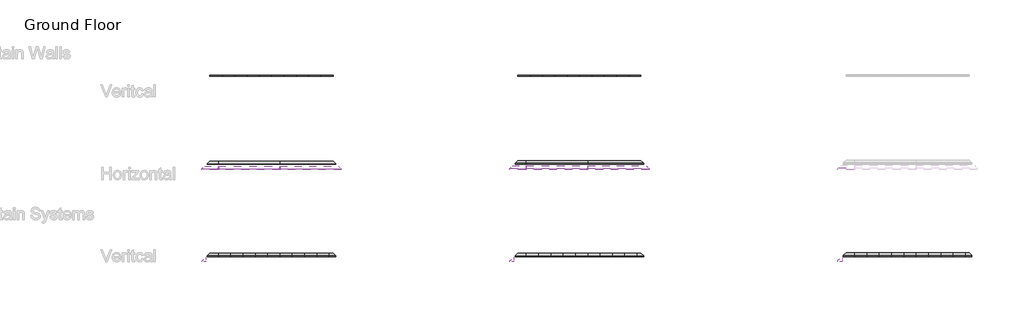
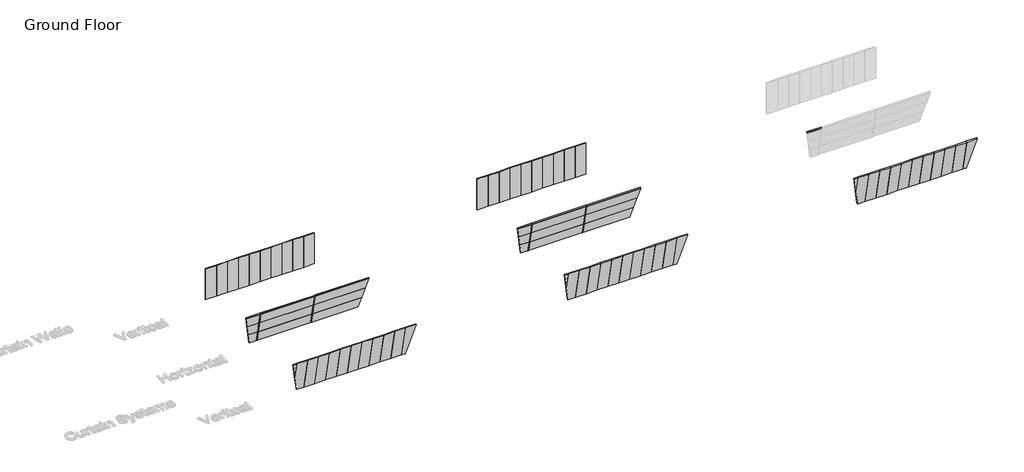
# One storey, part 1 of 9: 81 plates, 16 members.
"""IFC4 building model written with IfcOpenShell, lengths in millimetres."""

from ifc_helpers import new_model, si_unit, origin, place, context, project, spatial, transform, mapped, element, save
from components import rectangular_mullion_pi_mullion_20gap_50depth_70width_142a5764, rectangular_mullion_pi_mullion_20gap_50depth_70width_9113199f, system_panel_276d5853, system_panel_b8428c64, system_panel_244e55d7, system_panel_0e52adfc, system_panel_58bfb996, system_panel_810aceff, system_panel_dae109d1, system_panel_3fc5bacf, system_panel_61ef77c3, system_panel_4a560e26, system_panel_8fc2fa07, system_panel_ffccc5ed, system_panel_a9172ad6, system_panel_276398e4, system_panel_e92a4fb4, system_panel_2d20ec1c, system_panel_2103b3a6, system_panel_ce3216b0, system_panel_0e282976, system_panel_e06f3d7a, system_panel_9f1cbbff, system_panel_110e811f, system_panel_6bba82fc, system_panel_1b485f75, system_panel_cb7dd1a5, system_panel_68652501, system_panel_b922ef73, system_panel_e1c3cb3b, system_panel_d6a9731a, system_panel_ae01b499, system_panel_da9f9245, system_panel_4db2f891, system_panel_0650ad8c, system_panel_78934fff, system_panel_72fa3ca7

model = new_model("IFC4")

# Units and contexts
model_context = context("Model", 3, world=origin())
ifc_project = project(units=[si_unit("LENGTHUNIT", "METRE", prefix="MILLI")], contexts=[model_context])

# Site, building, storey
site = spatial("IfcSite", under=ifc_project)
building = spatial("IfcBuilding", under=site)
storey = spatial("IfcBuildingStorey", under=building, Name="Ground Floor", Elevation=0.0)

# Members
placement = place(None, origin())
rectangular_mullion_pi_mullion_20gap_50depth_70width_shape = rectangular_mullion_pi_mullion_20gap_50depth_70width_142a5764(model_context)
element("IfcMember", 1, ObjectType="Rectangular Mullion : PI-Mullion - 20Gap-50Depth-70Width", at=placement, inside=storey, context=model_context, shape_type="MappedRepresentation", body=[
    mapped(rectangular_mullion_pi_mullion_20gap_50depth_70width_shape, transform((-44187.533429, -11236.337246, 3600.0), x_axis=(-1.0, 0.0, 0.0), y_axis=(0.0, -0.978268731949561, -0.20734099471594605), z_axis=(0.0, -0.20734099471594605, 0.978268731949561))),
])
element("IfcMember", 2, ObjectType="Rectangular Mullion : PI-Mullion - 20Gap-50Depth-70Width", at=placement, inside=storey, context=model_context, shape_type="MappedRepresentation", body=[
    mapped(rectangular_mullion_pi_mullion_20gap_50depth_70width_shape, transform((-50187.533429, -11236.337246, 3600.0), x_axis=(-1.0, 0.0, 0.0), y_axis=(0.0, -0.978268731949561, -0.20734099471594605), z_axis=(0.0, -0.20734099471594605, 0.978268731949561))),
])
element("IfcMember", 3, ObjectType="Rectangular Mullion : PI-Mullion - 20Gap-50Depth-70Width", at=placement, inside=storey, context=model_context, shape_type="MappedRepresentation", body=[
    mapped(rectangular_mullion_pi_mullion_20gap_50depth_70width_shape, transform((-14187.533429, -11236.337246, 3600.0), x_axis=(-1.0, 0.0, 0.0), y_axis=(0.0, -0.978268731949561, -0.20734099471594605), z_axis=(0.0, -0.20734099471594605, 0.978268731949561))),
])
element("IfcMember", 4, ObjectType="Rectangular Mullion : PI-Mullion - 20Gap-50Depth-70Width", at=placement, inside=storey, context=model_context, shape_type="MappedRepresentation", body=[
    mapped(rectangular_mullion_pi_mullion_20gap_50depth_70width_shape, transform((-20187.533429, -11236.337246, 3600.0), x_axis=(-1.0, 0.0, 0.0), y_axis=(0.0, -0.978268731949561, -0.20734099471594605), z_axis=(0.0, -0.20734099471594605, 0.978268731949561))),
])
rectangular_mullion_pi_mullion_20gap_50depth_70width_2_shape = rectangular_mullion_pi_mullion_20gap_50depth_70width_9113199f(model_context)
element("IfcMember", 5, ObjectType="Rectangular Mullion : PI-Mullion - 20Gap-50Depth-70Width", at=placement, inside=storey, context=model_context, shape_type="MappedRepresentation", body=[
    mapped(rectangular_mullion_pi_mullion_20gap_50depth_70width_2_shape, transform((-44187.533429, -10722.1377115, 1173.9224783), x_axis=(-1.0, 0.0, 0.0), y_axis=(0.0, -0.9782687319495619, -0.207340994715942), z_axis=(0.0, -0.207340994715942, 0.9782687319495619))),
])
element("IfcMember", 6, ObjectType="Rectangular Mullion : PI-Mullion - 20Gap-50Depth-70Width", at=placement, inside=storey, context=model_context, shape_type="MappedRepresentation", body=[
    mapped(rectangular_mullion_pi_mullion_20gap_50depth_70width_2_shape, transform((-50187.533429, -10722.1377115, 1173.9224783), x_axis=(-1.0, 0.0, 0.0), y_axis=(0.0, -0.9782687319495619, -0.207340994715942), z_axis=(0.0, -0.207340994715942, 0.9782687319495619))),
])
element("IfcMember", 7, ObjectType="Rectangular Mullion : PI-Mullion - 20Gap-50Depth-70Width", at=placement, inside=storey, context=model_context, shape_type="MappedRepresentation", body=[
    mapped(rectangular_mullion_pi_mullion_20gap_50depth_70width_2_shape, transform((-14187.533429, -10722.1377115, 1173.9224783), x_axis=(-1.0, 0.0, 0.0), y_axis=(0.0, -0.9782687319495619, -0.207340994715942), z_axis=(0.0, -0.207340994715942, 0.9782687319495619))),
])
element("IfcMember", 8, ObjectType="Rectangular Mullion : PI-Mullion - 20Gap-50Depth-70Width", at=placement, inside=storey, context=model_context, shape_type="MappedRepresentation", body=[
    mapped(rectangular_mullion_pi_mullion_20gap_50depth_70width_2_shape, transform((-20187.533429, -10722.1377115, 1173.9224783), x_axis=(-1.0, 0.0, 0.0), y_axis=(0.0, -0.9782687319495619, -0.207340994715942), z_axis=(0.0, -0.207340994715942, 0.9782687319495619))),
])
element("IfcMember", 9, ObjectType="Rectangular Mullion : PI-Mullion - 20Gap-50Depth-70Width", at=placement, inside=storey, context=model_context, shape_type="MappedRepresentation", body=[
    mapped(rectangular_mullion_pi_mullion_20gap_50depth_70width_2_shape, transform((-44187.533429, -10970.9469052, 2347.8449567), x_axis=(-1.0, 0.0, 0.0), y_axis=(0.0, -0.9782687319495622, -0.20734099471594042), z_axis=(0.0, -0.20734099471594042, 0.9782687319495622))),
])
element("IfcMember", 10, ObjectType="Rectangular Mullion : PI-Mullion - 20Gap-50Depth-70Width", at=placement, inside=storey, context=model_context, shape_type="MappedRepresentation", body=[
    mapped(rectangular_mullion_pi_mullion_20gap_50depth_70width_2_shape, transform((-50187.533429, -10970.9469052, 2347.8449567), x_axis=(-1.0, 0.0, 0.0), y_axis=(0.0, -0.9782687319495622, -0.20734099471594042), z_axis=(0.0, -0.20734099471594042, 0.9782687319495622))),
])
element("IfcMember", 11, ObjectType="Rectangular Mullion : PI-Mullion - 20Gap-50Depth-70Width", at=placement, inside=storey, context=model_context, shape_type="MappedRepresentation", body=[
    mapped(rectangular_mullion_pi_mullion_20gap_50depth_70width_2_shape, transform((-44187.533429, -11219.7560988, 3521.767435), x_axis=(-1.0, 0.0, 0.0), y_axis=(0.0, -0.9782687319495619, -0.20734099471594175), z_axis=(0.0, -0.20734099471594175, 0.9782687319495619))),
])
element("IfcMember", 12, ObjectType="Rectangular Mullion : PI-Mullion - 20Gap-50Depth-70Width", at=placement, inside=storey, context=model_context, shape_type="MappedRepresentation", body=[
    mapped(rectangular_mullion_pi_mullion_20gap_50depth_70width_2_shape, transform((-50187.533429, -11219.7560988, 3521.767435), x_axis=(-1.0, 0.0, 0.0), y_axis=(0.0, -0.9782687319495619, -0.20734099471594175), z_axis=(0.0, -0.20734099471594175, 0.9782687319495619))),
])
element("IfcMember", 13, ObjectType="Rectangular Mullion : PI-Mullion - 20Gap-50Depth-70Width", at=placement, inside=storey, context=model_context, shape_type="MappedRepresentation", body=[
    mapped(rectangular_mullion_pi_mullion_20gap_50depth_70width_2_shape, transform((-14187.533429, -10970.9469052, 2347.8449567), x_axis=(-1.0, 0.0, 0.0), y_axis=(0.0, -0.9782687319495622, -0.20734099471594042), z_axis=(0.0, -0.20734099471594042, 0.9782687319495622))),
])
element("IfcMember", 14, ObjectType="Rectangular Mullion : PI-Mullion - 20Gap-50Depth-70Width", at=placement, inside=storey, context=model_context, shape_type="MappedRepresentation", body=[
    mapped(rectangular_mullion_pi_mullion_20gap_50depth_70width_2_shape, transform((-20187.533429, -10970.9469052, 2347.8449567), x_axis=(-1.0, 0.0, 0.0), y_axis=(0.0, -0.9782687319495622, -0.20734099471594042), z_axis=(0.0, -0.20734099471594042, 0.9782687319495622))),
])
element("IfcMember", 15, ObjectType="Rectangular Mullion : PI-Mullion - 20Gap-50Depth-70Width", at=placement, inside=storey, context=model_context, shape_type="MappedRepresentation", body=[
    mapped(rectangular_mullion_pi_mullion_20gap_50depth_70width_2_shape, transform((-14187.533429, -11219.7560988, 3521.767435), x_axis=(-1.0, 0.0, 0.0), y_axis=(0.0, -0.9782687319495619, -0.20734099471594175), z_axis=(0.0, -0.20734099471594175, 0.9782687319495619))),
])
element("IfcMember", 16, ObjectType="Rectangular Mullion : PI-Mullion - 20Gap-50Depth-70Width", at=placement, inside=storey, context=model_context, shape_type="MappedRepresentation", body=[
    mapped(rectangular_mullion_pi_mullion_20gap_50depth_70width_2_shape, transform((-20187.533429, -11219.7560988, 3521.767435), x_axis=(-1.0, 0.0, 0.0), y_axis=(0.0, -0.9782687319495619, -0.20734099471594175), z_axis=(0.0, -0.20734099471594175, 0.9782687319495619))),
])

# Plates
system_panel_shape = system_panel_276d5853(model_context)
element("IfcPlate", 17, ObjectType="System Panel : Equitilt 75mm Vertical - Plain RHEA - EPS-FR", at=placement, inside=storey, context=model_context, shape_type="MappedRepresentation", body=[
    mapped(system_panel_shape, transform((-38797.533429, -19473.3285178, 0.0), x_axis=(-1.0, 0.0, 0.0), y_axis=(0.0, -0.978268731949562, -0.20734099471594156), z_axis=(0.0, -0.20734099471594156, 0.978268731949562))),
])
system_panel_2_shape = system_panel_b8428c64(model_context)
element("IfcPlate", 18, ObjectType="System Panel : Equitilt 75mm Vertical - Plain RHEA - EPS-FR", at=placement, inside=storey, context=model_context, shape_type="MappedRepresentation", body=[
    mapped(system_panel_2_shape, transform((-39997.533429, -19473.3285178, 0.0), x_axis=(-1.0, 0.0, 0.0), y_axis=(0.0, -0.978268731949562, -0.20734099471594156), z_axis=(0.0, -0.20734099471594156, 0.978268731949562))),
])
element("IfcPlate", 19, ObjectType="System Panel : Equitilt 75mm Vertical - Plain RHEA - EPS-FR", at=placement, inside=storey, context=model_context, shape_type="MappedRepresentation", body=[
    mapped(system_panel_2_shape, transform((-41197.533429, -19473.3285178, 0.0), x_axis=(-1.0, 0.0, 0.0), y_axis=(0.0, -0.978268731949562, -0.20734099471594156), z_axis=(0.0, -0.20734099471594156, 0.978268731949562))),
])
element("IfcPlate", 20, ObjectType="System Panel : Equitilt 75mm Vertical - Plain RHEA - EPS-FR", at=placement, inside=storey, context=model_context, shape_type="MappedRepresentation", body=[
    mapped(system_panel_2_shape, transform((-42397.533429, -19473.3285178, 0.0), x_axis=(-1.0, 0.0, 0.0), y_axis=(0.0, -0.978268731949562, -0.20734099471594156), z_axis=(0.0, -0.20734099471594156, 0.978268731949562))),
])
element("IfcPlate", 21, ObjectType="System Panel : Equitilt 75mm Vertical - Plain RHEA - EPS-FR", at=placement, inside=storey, context=model_context, shape_type="MappedRepresentation", body=[
    mapped(system_panel_2_shape, transform((-43597.533429, -19473.3285178, 0.0), x_axis=(-1.0, 0.0, 0.0), y_axis=(0.0, -0.978268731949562, -0.20734099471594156), z_axis=(0.0, -0.20734099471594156, 0.978268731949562))),
])
element("IfcPlate", 22, ObjectType="System Panel : Equitilt 75mm Vertical - Plain RHEA - EPS-FR", at=placement, inside=storey, context=model_context, shape_type="MappedRepresentation", body=[
    mapped(system_panel_2_shape, transform((-44797.533429, -19473.3285178, 0.0), x_axis=(-1.0, 0.0, 0.0), y_axis=(0.0, -0.978268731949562, -0.20734099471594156), z_axis=(0.0, -0.20734099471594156, 0.978268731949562))),
])
element("IfcPlate", 23, ObjectType="System Panel : Equitilt 75mm Vertical - Plain RHEA - EPS-FR", at=placement, inside=storey, context=model_context, shape_type="MappedRepresentation", body=[
    mapped(system_panel_2_shape, transform((-45997.533429, -19473.3285178, 0.0), x_axis=(-1.0, 0.0, 0.0), y_axis=(0.0, -0.978268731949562, -0.20734099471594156), z_axis=(0.0, -0.20734099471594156, 0.978268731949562))),
])
element("IfcPlate", 24, ObjectType="System Panel : Equitilt 75mm Vertical - Plain RHEA - EPS-FR", at=placement, inside=storey, context=model_context, shape_type="MappedRepresentation", body=[
    mapped(system_panel_2_shape, transform((-47197.533429, -19473.3285178, 0.0), x_axis=(-1.0, 0.0, 0.0), y_axis=(0.0, -0.978268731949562, -0.20734099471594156), z_axis=(0.0, -0.20734099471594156, 0.978268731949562))),
])
element("IfcPlate", 25, ObjectType="System Panel : Equitilt 75mm Vertical - Plain RHEA - EPS-FR", at=placement, inside=storey, context=model_context, shape_type="MappedRepresentation", body=[
    mapped(system_panel_2_shape, transform((-48397.533429, -19473.3285178, 0.0), x_axis=(-1.0, 0.0, 0.0), y_axis=(0.0, -0.978268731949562, -0.20734099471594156), z_axis=(0.0, -0.20734099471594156, 0.978268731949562))),
])
element("IfcPlate", 26, ObjectType="System Panel : Equitilt 75mm Vertical - Plain RHEA - EPS-FR", at=placement, inside=storey, context=model_context, shape_type="MappedRepresentation", body=[
    mapped(system_panel_2_shape, transform((-49597.533429, -19473.3285178, 0.0), x_axis=(-1.0, 0.0, 0.0), y_axis=(0.0, -0.978268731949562, -0.20734099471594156), z_axis=(0.0, -0.20734099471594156, 0.978268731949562))),
])
system_panel_3_shape = system_panel_244e55d7(model_context)
element("IfcPlate", 27, ObjectType="System Panel : Equitilt 75mm Vertical - Plain RHEA - EPS-FR", at=placement, inside=storey, context=model_context, shape_type="MappedRepresentation", body=[
    mapped(system_panel_3_shape, transform((-50797.533429, -19473.3285178, 0.0), x_axis=(-1.0, 0.0, 0.0), y_axis=(0.0, -0.978268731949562, -0.20734099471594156), z_axis=(0.0, -0.20734099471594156, 0.978268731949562))),
])
system_panel_4_shape = system_panel_0e52adfc(model_context)
element("IfcPlate", 28, ObjectType="System Panel : Equitilt 75mm Vertical - Plain RHEA - EPS-FR", at=placement, inside=storey, context=model_context, shape_type="MappedRepresentation", body=[
    mapped(system_panel_4_shape, transform((-51597.533429, -19854.8328819, 1800.0), x_axis=(-1.0, 0.0, 0.0), y_axis=(0.0, -0.978268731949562, -0.20734099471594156), z_axis=(0.0, -0.20734099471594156, 0.978268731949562))),
])
system_panel_5_shape = system_panel_58bfb996(model_context)
element("IfcPlate", 29, ObjectType="System Panel : Equitilt 100mm Horizontal - Plain RHEA - EPS-FR", at=placement, inside=storey, context=model_context, shape_type="MappedRepresentation", body=[
    mapped(system_panel_5_shape, transform((-17187.533429, -10473.3285178, 0.0), x_axis=(-1.0, 0.0, 0.0), y_axis=(0.0, -0.978268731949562, -0.20734099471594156), z_axis=(0.0, -0.20734099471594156, 0.978268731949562))),
])
element("IfcPlate", 30, ObjectType="System Panel : Equitilt 100mm Horizontal - Plain RHEA - EPS-FR", at=placement, inside=storey, context=model_context, shape_type="MappedRepresentation", body=[
    mapped(system_panel_5_shape, transform((-17187.533429, -10722.1377115, 1173.9224783), x_axis=(-1.0, 0.0, 0.0), y_axis=(0.0, -0.978268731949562, -0.20734099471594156), z_axis=(0.0, -0.20734099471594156, 0.978268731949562))),
])
element("IfcPlate", 31, ObjectType="System Panel : Equitilt 100mm Horizontal - Plain RHEA - EPS-FR", at=placement, inside=storey, context=model_context, shape_type="MappedRepresentation", body=[
    mapped(system_panel_5_shape, transform((-17187.533429, -10970.9469052, 2347.8449567), x_axis=(-1.0, 0.0, 0.0), y_axis=(0.0, -0.978268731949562, -0.20734099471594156), z_axis=(0.0, -0.20734099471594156, 0.978268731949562))),
])
system_panel_6_shape = system_panel_810aceff(model_context)
element("IfcPlate", 32, ObjectType="System Panel : Equitilt 100mm Horizontal - Plain RHEA - EPS-FR", at=placement, inside=storey, context=model_context, shape_type="MappedRepresentation", body=[
    mapped(system_panel_6_shape, transform((-17187.533429, -11219.7560988, 3521.767435), x_axis=(-1.0, 0.0, 0.0), y_axis=(0.0, -0.978268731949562, -0.20734099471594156), z_axis=(0.0, -0.20734099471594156, 0.978268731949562))),
])
system_panel_7_shape = system_panel_dae109d1(model_context)
element("IfcPlate", 33, ObjectType="System Panel : Equitilt 75mm Horizontal - Plain RHEA - EPS-FR", at=placement, inside=storey, context=model_context, shape_type="MappedRepresentation", body=[
    mapped(system_panel_7_shape, transform((-41457.097598, -10473.3285178, 0.0), x_axis=(-1.0, 0.0, 0.0), y_axis=(0.0, -0.978268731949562, -0.20734099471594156), z_axis=(0.0, -0.20734099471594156, 0.978268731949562))),
])
system_panel_8_shape = system_panel_3fc5bacf(model_context)
element("IfcPlate", 34, ObjectType="System Panel : Equitilt 75mm Horizontal - Plain RHEA - EPS-FR", at=placement, inside=storey, context=model_context, shape_type="MappedRepresentation", body=[
    mapped(system_panel_8_shape, transform((-47187.533429, -10473.3285178, 0.0), x_axis=(-1.0, 0.0, 0.0), y_axis=(0.0, -0.978268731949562, -0.20734099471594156), z_axis=(0.0, -0.20734099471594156, 0.978268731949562))),
])
element("IfcPlate", 35, ObjectType="System Panel : Equitilt 75mm Horizontal - Plain RHEA - EPS-FR", at=placement, inside=storey, context=model_context, shape_type="MappedRepresentation", body=[
    mapped(system_panel_8_shape, transform((-47187.533429, -10722.1377115, 1173.9224783), x_axis=(-1.0, 0.0, 0.0), y_axis=(0.0, -0.978268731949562, -0.20734099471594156), z_axis=(0.0, -0.20734099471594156, 0.978268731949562))),
])
element("IfcPlate", 36, ObjectType="System Panel : Equitilt 75mm Horizontal - Plain RHEA - EPS-FR", at=placement, inside=storey, context=model_context, shape_type="MappedRepresentation", body=[
    mapped(system_panel_8_shape, transform((-47187.533429, -10970.9469052, 2347.8449567), x_axis=(-1.0, 0.0, 0.0), y_axis=(0.0, -0.978268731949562, -0.20734099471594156), z_axis=(0.0, -0.20734099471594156, 0.978268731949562))),
])
system_panel_9_shape = system_panel_61ef77c3(model_context)
element("IfcPlate", 37, ObjectType="System Panel : Equitilt 75mm Horizontal - Plain RHEA - EPS-FR", at=placement, inside=storey, context=model_context, shape_type="MappedRepresentation", body=[
    mapped(system_panel_9_shape, transform((-50727.9692599, -10473.3285178, 0.0), x_axis=(-1.0, 0.0, 0.0), y_axis=(0.0, -0.978268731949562, -0.20734099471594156), z_axis=(0.0, -0.20734099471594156, 0.978268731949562))),
])
system_panel_10_shape = system_panel_4a560e26(model_context)
element("IfcPlate", 38, ObjectType="System Panel : Equitilt 75mm Horizontal - Plain RHEA - EPS-FR", at=placement, inside=storey, context=model_context, shape_type="MappedRepresentation", body=[
    mapped(system_panel_10_shape, transform((-41326.6617671, -10722.1377115, 1173.9224783), x_axis=(-1.0, 0.0, 0.0), y_axis=(0.0, -0.978268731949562, -0.20734099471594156), z_axis=(0.0, -0.20734099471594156, 0.978268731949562))),
])
system_panel_11_shape = system_panel_8fc2fa07(model_context)
element("IfcPlate", 39, ObjectType="System Panel : Equitilt 75mm Horizontal - Plain RHEA - EPS-FR", at=placement, inside=storey, context=model_context, shape_type="MappedRepresentation", body=[
    mapped(system_panel_11_shape, transform((-50858.4050908, -10722.1377115, 1173.9224783), x_axis=(-1.0, 0.0, 0.0), y_axis=(0.0, -0.978268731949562, -0.20734099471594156), z_axis=(0.0, -0.20734099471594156, 0.978268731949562))),
])
system_panel_12_shape = system_panel_ffccc5ed(model_context)
element("IfcPlate", 40, ObjectType="System Panel : Equitilt 75mm Horizontal - Plain RHEA - EPS-FR", at=placement, inside=storey, context=model_context, shape_type="MappedRepresentation", body=[
    mapped(system_panel_12_shape, transform((-41196.2259362, -10970.9469052, 2347.8449567), x_axis=(-1.0, 0.0, 0.0), y_axis=(0.0, -0.978268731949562, -0.20734099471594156), z_axis=(0.0, -0.20734099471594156, 0.978268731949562))),
])
system_panel_13_shape = system_panel_a9172ad6(model_context)
element("IfcPlate", 41, ObjectType="System Panel : Equitilt 75mm Horizontal - Plain RHEA - EPS-FR", at=placement, inside=storey, context=model_context, shape_type="MappedRepresentation", body=[
    mapped(system_panel_13_shape, transform((-50988.8409217, -10970.9469052, 2347.8449567), x_axis=(-1.0, 0.0, 0.0), y_axis=(0.0, -0.978268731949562, -0.20734099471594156), z_axis=(0.0, -0.20734099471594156, 0.978268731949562))),
])
system_panel_14_shape = system_panel_276398e4(model_context)
element("IfcPlate", 42, ObjectType="System Panel : Equitilt 75mm Horizontal - Plain RHEA - EPS-FR", at=placement, inside=storey, context=model_context, shape_type="MappedRepresentation", body=[
    mapped(system_panel_14_shape, transform((-41187.533429, -11219.7560988, 3521.767435), x_axis=(-1.0, 0.0, 0.0), y_axis=(0.0, -0.978268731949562, -0.20734099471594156), z_axis=(0.0, -0.20734099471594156, 0.978268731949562))),
])
system_panel_15_shape = system_panel_e92a4fb4(model_context)
element("IfcPlate", 43, ObjectType="System Panel : Equitilt 75mm Horizontal - Plain RHEA - EPS-FR", at=placement, inside=storey, context=model_context, shape_type="MappedRepresentation", body=[
    mapped(system_panel_15_shape, transform((-47187.533429, -11219.7560988, 3521.767435), x_axis=(-1.0, 0.0, 0.0), y_axis=(0.0, -0.978268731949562, -0.20734099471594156), z_axis=(0.0, -0.20734099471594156, 0.978268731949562))),
])
system_panel_16_shape = system_panel_2d20ec1c(model_context)
element("IfcPlate", 44, ObjectType="System Panel : Equitilt 75mm Horizontal - Plain RHEA - EPS-FR", at=placement, inside=storey, context=model_context, shape_type="MappedRepresentation", body=[
    mapped(system_panel_16_shape, transform((-50997.533429, -11219.7560988, 3521.767435), x_axis=(-1.0, 0.0, 0.0), y_axis=(0.0, -0.978268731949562, -0.20734099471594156), z_axis=(0.0, -0.20734099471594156, 0.978268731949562))),
])
system_panel_17_shape = system_panel_2103b3a6(model_context)
element("IfcPlate", 45, ObjectType="System Panel : Equitilt 100mm Vertical - Plain RHEA - EPS-FR", at=placement, inside=storey, context=model_context, shape_type="MappedRepresentation", body=[
    mapped(system_panel_17_shape, transform((-8797.533429, -19473.3285178, 0.0), x_axis=(-1.0, 0.0, 0.0), y_axis=(0.0, -0.978268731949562, -0.20734099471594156), z_axis=(0.0, -0.20734099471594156, 0.978268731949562))),
])
system_panel_18_shape = system_panel_ce3216b0(model_context)
element("IfcPlate", 46, ObjectType="System Panel : Equitilt 100mm Vertical - Plain RHEA - EPS-FR", at=placement, inside=storey, context=model_context, shape_type="MappedRepresentation", body=[
    mapped(system_panel_18_shape, transform((-9997.533429, -19473.3285178, 0.0), x_axis=(-1.0, 0.0, 0.0), y_axis=(0.0, -0.978268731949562, -0.20734099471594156), z_axis=(0.0, -0.20734099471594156, 0.978268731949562))),
])
element("IfcPlate", 47, ObjectType="System Panel : Equitilt 100mm Vertical - Plain RHEA - EPS-FR", at=placement, inside=storey, context=model_context, shape_type="MappedRepresentation", body=[
    mapped(system_panel_18_shape, transform((-11197.533429, -19473.3285178, 0.0), x_axis=(-1.0, 0.0, 0.0), y_axis=(0.0, -0.978268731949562, -0.20734099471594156), z_axis=(0.0, -0.20734099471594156, 0.978268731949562))),
])
element("IfcPlate", 48, ObjectType="System Panel : Equitilt 100mm Vertical - Plain RHEA - EPS-FR", at=placement, inside=storey, context=model_context, shape_type="MappedRepresentation", body=[
    mapped(system_panel_18_shape, transform((-12397.533429, -19473.3285178, 0.0), x_axis=(-1.0, 0.0, 0.0), y_axis=(0.0, -0.978268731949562, -0.20734099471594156), z_axis=(0.0, -0.20734099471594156, 0.978268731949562))),
])
element("IfcPlate", 49, ObjectType="System Panel : Equitilt 100mm Vertical - Plain RHEA - EPS-FR", at=placement, inside=storey, context=model_context, shape_type="MappedRepresentation", body=[
    mapped(system_panel_18_shape, transform((-13597.533429, -19473.3285178, 0.0), x_axis=(-1.0, 0.0, 0.0), y_axis=(0.0, -0.978268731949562, -0.20734099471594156), z_axis=(0.0, -0.20734099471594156, 0.978268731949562))),
])
element("IfcPlate", 50, ObjectType="System Panel : Equitilt 100mm Vertical - Plain RHEA - EPS-FR", at=placement, inside=storey, context=model_context, shape_type="MappedRepresentation", body=[
    mapped(system_panel_18_shape, transform((-14797.533429, -19473.3285178, 0.0), x_axis=(-1.0, 0.0, 0.0), y_axis=(0.0, -0.978268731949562, -0.20734099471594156), z_axis=(0.0, -0.20734099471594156, 0.978268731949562))),
])
element("IfcPlate", 51, ObjectType="System Panel : Equitilt 100mm Vertical - Plain RHEA - EPS-FR", at=placement, inside=storey, context=model_context, shape_type="MappedRepresentation", body=[
    mapped(system_panel_18_shape, transform((-15997.533429, -19473.3285178, 0.0), x_axis=(-1.0, 0.0, 0.0), y_axis=(0.0, -0.978268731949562, -0.20734099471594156), z_axis=(0.0, -0.20734099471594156, 0.978268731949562))),
])
element("IfcPlate", 52, ObjectType="System Panel : Equitilt 100mm Vertical - Plain RHEA - EPS-FR", at=placement, inside=storey, context=model_context, shape_type="MappedRepresentation", body=[
    mapped(system_panel_18_shape, transform((-17197.533429, -19473.3285178, 0.0), x_axis=(-1.0, 0.0, 0.0), y_axis=(0.0, -0.978268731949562, -0.20734099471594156), z_axis=(0.0, -0.20734099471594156, 0.978268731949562))),
])
element("IfcPlate", 53, ObjectType="System Panel : Equitilt 100mm Vertical - Plain RHEA - EPS-FR", at=placement, inside=storey, context=model_context, shape_type="MappedRepresentation", body=[
    mapped(system_panel_18_shape, transform((-18397.533429, -19473.3285178, 0.0), x_axis=(-1.0, 0.0, 0.0), y_axis=(0.0, -0.978268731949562, -0.20734099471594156), z_axis=(0.0, -0.20734099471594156, 0.978268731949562))),
])
element("IfcPlate", 54, ObjectType="System Panel : Equitilt 100mm Vertical - Plain RHEA - EPS-FR", at=placement, inside=storey, context=model_context, shape_type="MappedRepresentation", body=[
    mapped(system_panel_18_shape, transform((-19597.533429, -19473.3285178, 0.0), x_axis=(-1.0, 0.0, 0.0), y_axis=(0.0, -0.978268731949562, -0.20734099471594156), z_axis=(0.0, -0.20734099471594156, 0.978268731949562))),
])
system_panel_19_shape = system_panel_0e282976(model_context)
element("IfcPlate", 55, ObjectType="System Panel : Equitilt 100mm Vertical - Plain RHEA - EPS-FR", at=placement, inside=storey, context=model_context, shape_type="MappedRepresentation", body=[
    mapped(system_panel_19_shape, transform((-20797.533429, -19473.3285178, 0.0), x_axis=(-1.0, 0.0, 0.0), y_axis=(0.0, -0.978268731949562, -0.20734099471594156), z_axis=(0.0, -0.20734099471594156, 0.978268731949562))),
])
system_panel_20_shape = system_panel_e06f3d7a(model_context)
element("IfcPlate", 56, ObjectType="System Panel : Equitilt 100mm Vertical - Plain RHEA - EPS-FR", at=placement, inside=storey, context=model_context, shape_type="MappedRepresentation", body=[
    mapped(system_panel_20_shape, transform((-21597.533429, -19854.8328819, 1800.0), x_axis=(-1.0, 0.0, 0.0), y_axis=(0.0, -0.978268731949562, -0.20734099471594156), z_axis=(0.0, -0.20734099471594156, 0.978268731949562))),
])
system_panel_21_shape = system_panel_9f1cbbff(model_context)
element("IfcPlate", 57, ObjectType="System Panel : Equitilt 150mm Horizontal - Plain RHEA - EPS-FR", at=placement, inside=storey, context=model_context, shape_type="MappedRepresentation", body=[
    mapped(system_panel_21_shape, transform((11002.466571, -11219.7560988, 3521.767435), x_axis=(-1.0, 0.0, 0.0), y_axis=(0.0, -0.978268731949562, -0.20734099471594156), z_axis=(0.0, -0.20734099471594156, 0.978268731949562))),
])
system_panel_22_shape = system_panel_110e811f(model_context)
element("IfcPlate", 58, ObjectType="System Panel : Equitilt 150mm Vertical - Plain RHEA - EPS-FR", at=placement, inside=storey, context=model_context, shape_type="MappedRepresentation", body=[
    mapped(system_panel_22_shape, transform((23202.466571, -19473.3285178, 0.0), x_axis=(-1.0, 0.0, 0.0), y_axis=(0.0, -0.978268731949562, -0.20734099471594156), z_axis=(0.0, -0.20734099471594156, 0.978268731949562))),
])
system_panel_23_shape = system_panel_6bba82fc(model_context)
element("IfcPlate", 59, ObjectType="System Panel : Equitilt 150mm Vertical - Plain RHEA - EPS-FR", at=placement, inside=storey, context=model_context, shape_type="MappedRepresentation", body=[
    mapped(system_panel_23_shape, transform((22002.466571, -19473.3285178, 0.0), x_axis=(-1.0, 0.0, 0.0), y_axis=(0.0, -0.978268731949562, -0.20734099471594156), z_axis=(0.0, -0.20734099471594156, 0.978268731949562))),
])
element("IfcPlate", 60, ObjectType="System Panel : Equitilt 150mm Vertical - Plain RHEA - EPS-FR", at=placement, inside=storey, context=model_context, shape_type="MappedRepresentation", body=[
    mapped(system_panel_23_shape, transform((20802.466571, -19473.3285178, 0.0), x_axis=(-1.0, 0.0, 0.0), y_axis=(0.0, -0.978268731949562, -0.20734099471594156), z_axis=(0.0, -0.20734099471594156, 0.978268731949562))),
])
element("IfcPlate", 61, ObjectType="System Panel : Equitilt 150mm Vertical - Plain RHEA - EPS-FR", at=placement, inside=storey, context=model_context, shape_type="MappedRepresentation", body=[
    mapped(system_panel_23_shape, transform((19602.466571, -19473.3285178, 0.0), x_axis=(-1.0, 0.0, 0.0), y_axis=(0.0, -0.978268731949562, -0.20734099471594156), z_axis=(0.0, -0.20734099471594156, 0.978268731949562))),
])
element("IfcPlate", 62, ObjectType="System Panel : Equitilt 150mm Vertical - Plain RHEA - EPS-FR", at=placement, inside=storey, context=model_context, shape_type="MappedRepresentation", body=[
    mapped(system_panel_23_shape, transform((18402.466571, -19473.3285178, 0.0), x_axis=(-1.0, 0.0, 0.0), y_axis=(0.0, -0.978268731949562, -0.20734099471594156), z_axis=(0.0, -0.20734099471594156, 0.978268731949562))),
])
element("IfcPlate", 63, ObjectType="System Panel : Equitilt 150mm Vertical - Plain RHEA - EPS-FR", at=placement, inside=storey, context=model_context, shape_type="MappedRepresentation", body=[
    mapped(system_panel_23_shape, transform((17202.466571, -19473.3285178, 0.0), x_axis=(-1.0, 0.0, 0.0), y_axis=(0.0, -0.978268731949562, -0.20734099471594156), z_axis=(0.0, -0.20734099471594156, 0.978268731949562))),
])
element("IfcPlate", 64, ObjectType="System Panel : Equitilt 150mm Vertical - Plain RHEA - EPS-FR", at=placement, inside=storey, context=model_context, shape_type="MappedRepresentation", body=[
    mapped(system_panel_23_shape, transform((16002.466571, -19473.3285178, 0.0), x_axis=(-1.0, 0.0, 0.0), y_axis=(0.0, -0.978268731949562, -0.20734099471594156), z_axis=(0.0, -0.20734099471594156, 0.978268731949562))),
])
element("IfcPlate", 65, ObjectType="System Panel : Equitilt 150mm Vertical - Plain RHEA - EPS-FR", at=placement, inside=storey, context=model_context, shape_type="MappedRepresentation", body=[
    mapped(system_panel_23_shape, transform((14802.466571, -19473.3285178, 0.0), x_axis=(-1.0, 0.0, 0.0), y_axis=(0.0, -0.978268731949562, -0.20734099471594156), z_axis=(0.0, -0.20734099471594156, 0.978268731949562))),
])
element("IfcPlate", 66, ObjectType="System Panel : Equitilt 150mm Vertical - Plain RHEA - EPS-FR", at=placement, inside=storey, context=model_context, shape_type="MappedRepresentation", body=[
    mapped(system_panel_23_shape, transform((13602.466571, -19473.3285178, 0.0), x_axis=(-1.0, 0.0, 0.0), y_axis=(0.0, -0.978268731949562, -0.20734099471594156), z_axis=(0.0, -0.20734099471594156, 0.978268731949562))),
])
element("IfcPlate", 67, ObjectType="System Panel : Equitilt 150mm Vertical - Plain RHEA - EPS-FR", at=placement, inside=storey, context=model_context, shape_type="MappedRepresentation", body=[
    mapped(system_panel_23_shape, transform((12402.466571, -19473.3285178, 0.0), x_axis=(-1.0, 0.0, 0.0), y_axis=(0.0, -0.978268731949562, -0.20734099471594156), z_axis=(0.0, -0.20734099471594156, 0.978268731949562))),
])
system_panel_24_shape = system_panel_1b485f75(model_context)
element("IfcPlate", 68, ObjectType="System Panel : Equitilt 150mm Vertical - Plain RHEA - EPS-FR", at=placement, inside=storey, context=model_context, shape_type="MappedRepresentation", body=[
    mapped(system_panel_24_shape, transform((11202.466571, -19473.3285178, 0.0), x_axis=(-1.0, 0.0, 0.0), y_axis=(0.0, -0.978268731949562, -0.20734099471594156), z_axis=(0.0, -0.20734099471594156, 0.978268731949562))),
])
system_panel_25_shape = system_panel_cb7dd1a5(model_context)
element("IfcPlate", 69, ObjectType="System Panel : Equitilt 150mm Vertical - Plain RHEA - EPS-FR", at=placement, inside=storey, context=model_context, shape_type="MappedRepresentation", body=[
    mapped(system_panel_25_shape, transform((10402.466571, -19854.8328819, 1800.0), x_axis=(-1.0, 0.0, 0.0), y_axis=(0.0, -0.978268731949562, -0.20734099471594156), z_axis=(0.0, -0.20734099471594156, 0.978268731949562))),
])
system_panel_26_shape = system_panel_68652501(model_context)
element("IfcPlate", 70, ObjectType="System Panel : Equitilt 100mm Horizontal - Plain RHEA - EPS-FR", at=placement, inside=storey, context=model_context, shape_type="MappedRepresentation", body=[
    mapped(system_panel_26_shape, transform((-11457.097598, -10473.3285178, 0.0), x_axis=(-1.0, 0.0, 0.0), y_axis=(0.0, -0.978268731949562, -0.20734099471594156), z_axis=(0.0, -0.20734099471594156, 0.978268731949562))),
])
system_panel_27_shape = system_panel_b922ef73(model_context)
element("IfcPlate", 71, ObjectType="System Panel : Equitilt 100mm Horizontal - Plain RHEA - EPS-FR", at=placement, inside=storey, context=model_context, shape_type="MappedRepresentation", body=[
    mapped(system_panel_27_shape, transform((-20727.9692599, -10473.3285178, 0.0), x_axis=(-1.0, 0.0, 0.0), y_axis=(0.0, -0.978268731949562, -0.20734099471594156), z_axis=(0.0, -0.20734099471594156, 0.978268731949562))),
])
system_panel_28_shape = system_panel_e1c3cb3b(model_context)
element("IfcPlate", 72, ObjectType="System Panel : Equitilt 100mm Horizontal - Plain RHEA - EPS-FR", at=placement, inside=storey, context=model_context, shape_type="MappedRepresentation", body=[
    mapped(system_panel_28_shape, transform((-11326.6617671, -10722.1377115, 1173.9224783), x_axis=(-1.0, 0.0, 0.0), y_axis=(0.0, -0.978268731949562, -0.20734099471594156), z_axis=(0.0, -0.20734099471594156, 0.978268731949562))),
])
system_panel_29_shape = system_panel_d6a9731a(model_context)
element("IfcPlate", 73, ObjectType="System Panel : Equitilt 100mm Horizontal - Plain RHEA - EPS-FR", at=placement, inside=storey, context=model_context, shape_type="MappedRepresentation", body=[
    mapped(system_panel_29_shape, transform((-20858.4050908, -10722.1377115, 1173.9224783), x_axis=(-1.0, 0.0, 0.0), y_axis=(0.0, -0.978268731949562, -0.20734099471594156), z_axis=(0.0, -0.20734099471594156, 0.978268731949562))),
])
system_panel_30_shape = system_panel_ae01b499(model_context)
element("IfcPlate", 74, ObjectType="System Panel : Equitilt 100mm Horizontal - Plain RHEA - EPS-FR", at=placement, inside=storey, context=model_context, shape_type="MappedRepresentation", body=[
    mapped(system_panel_30_shape, transform((-11196.2259362, -10970.9469052, 2347.8449567), x_axis=(-1.0, 0.0, 0.0), y_axis=(0.0, -0.978268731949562, -0.20734099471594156), z_axis=(0.0, -0.20734099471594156, 0.978268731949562))),
])
system_panel_31_shape = system_panel_da9f9245(model_context)
element("IfcPlate", 75, ObjectType="System Panel : Equitilt 100mm Horizontal - Plain RHEA - EPS-FR", at=placement, inside=storey, context=model_context, shape_type="MappedRepresentation", body=[
    mapped(system_panel_31_shape, transform((-20988.8409217, -10970.9469052, 2347.8449567), x_axis=(-1.0, 0.0, 0.0), y_axis=(0.0, -0.978268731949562, -0.20734099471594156), z_axis=(0.0, -0.20734099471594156, 0.978268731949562))),
])
system_panel_32_shape = system_panel_4db2f891(model_context)
element("IfcPlate", 76, ObjectType="System Panel : Equitilt 100mm Horizontal - Plain RHEA - EPS-FR", at=placement, inside=storey, context=model_context, shape_type="MappedRepresentation", body=[
    mapped(system_panel_32_shape, transform((-11187.533429, -11219.7560988, 3521.767435), x_axis=(-1.0, 0.0, 0.0), y_axis=(0.0, -0.978268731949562, -0.20734099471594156), z_axis=(0.0, -0.20734099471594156, 0.978268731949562))),
])
system_panel_33_shape = system_panel_0650ad8c(model_context)
element("IfcPlate", 77, ObjectType="System Panel : Equitilt 100mm Horizontal - Plain RHEA - EPS-FR", at=placement, inside=storey, context=model_context, shape_type="MappedRepresentation", body=[
    mapped(system_panel_33_shape, transform((-20997.533429, -11219.7560988, 3521.767435), x_axis=(-1.0, 0.0, 0.0), y_axis=(0.0, -0.978268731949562, -0.20734099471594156), z_axis=(0.0, -0.20734099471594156, 0.978268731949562))),
])
system_panel_34_shape = system_panel_78934fff(model_context)
element("IfcPlate", 78, ObjectType="System Panel : Equitilt 100mm Vertical - Plain RHEA - EPS-FR", at=placement, inside=storey, context=model_context, shape_type="MappedRepresentation", body=[
    mapped(system_panel_34_shape, transform((-20397.533429, -2133.3285178, 0.0), x_axis=(1.0, 0.0, 0.0), y_axis=(0.0, 1.0, 0.0), z_axis=(0.0, 0.0, 1.0))),
])
element("IfcPlate", 79, ObjectType="System Panel : Equitilt 100mm Vertical - Plain RHEA - EPS-FR", at=placement, inside=storey, context=model_context, shape_type="MappedRepresentation", body=[
    mapped(system_panel_34_shape, transform((-17997.533429, -2133.3285178, 0.0), x_axis=(1.0, 0.0, 0.0), y_axis=(0.0, 1.0, 0.0), z_axis=(0.0, 0.0, 1.0))),
])
element("IfcPlate", 80, ObjectType="System Panel : Equitilt 100mm Vertical - Plain RHEA - EPS-FR", at=placement, inside=storey, context=model_context, shape_type="MappedRepresentation", body=[
    mapped(system_panel_34_shape, transform((-16797.533429, -2133.3285178, 0.0), x_axis=(1.0, 0.0, 0.0), y_axis=(0.0, 1.0, 0.0), z_axis=(0.0, 0.0, 1.0))),
])
element("IfcPlate", 81, ObjectType="System Panel : Equitilt 100mm Vertical - Plain RHEA - EPS-FR", at=placement, inside=storey, context=model_context, shape_type="MappedRepresentation", body=[
    mapped(system_panel_34_shape, transform((-15597.533429, -2133.3285178, 0.0), x_axis=(1.0, 0.0, 0.0), y_axis=(0.0, 1.0, 0.0), z_axis=(0.0, 0.0, 1.0))),
])
element("IfcPlate", 82, ObjectType="System Panel : Equitilt 100mm Vertical - Plain RHEA - EPS-FR", at=placement, inside=storey, context=model_context, shape_type="MappedRepresentation", body=[
    mapped(system_panel_34_shape, transform((-14397.533429, -2133.3285178, 0.0), x_axis=(1.0, 0.0, 0.0), y_axis=(0.0, 1.0, 0.0), z_axis=(0.0, 0.0, 1.0))),
])
element("IfcPlate", 83, ObjectType="System Panel : Equitilt 100mm Vertical - Plain RHEA - EPS-FR", at=placement, inside=storey, context=model_context, shape_type="MappedRepresentation", body=[
    mapped(system_panel_34_shape, transform((-13197.533429, -2133.3285178, 0.0), x_axis=(1.0, 0.0, 0.0), y_axis=(0.0, 1.0, 0.0), z_axis=(0.0, 0.0, 1.0))),
])
element("IfcPlate", 84, ObjectType="System Panel : Equitilt 100mm Vertical - Plain RHEA - EPS-FR", at=placement, inside=storey, context=model_context, shape_type="MappedRepresentation", body=[
    mapped(system_panel_34_shape, transform((-11997.533429, -2133.3285178, 0.0), x_axis=(1.0, 0.0, 0.0), y_axis=(0.0, 1.0, 0.0), z_axis=(0.0, 0.0, 1.0))),
])
element("IfcPlate", 85, ObjectType="System Panel : Equitilt 100mm Vertical - Plain RHEA - EPS-FR", at=placement, inside=storey, context=model_context, shape_type="MappedRepresentation", body=[
    mapped(system_panel_34_shape, transform((-10797.533429, -2133.3285178, 0.0), x_axis=(1.0, 0.0, 0.0), y_axis=(0.0, 1.0, 0.0), z_axis=(0.0, 0.0, 1.0))),
])
element("IfcPlate", 86, ObjectType="System Panel : Equitilt 100mm Vertical - Plain RHEA - EPS-FR", at=placement, inside=storey, context=model_context, shape_type="MappedRepresentation", body=[
    mapped(system_panel_34_shape, transform((-9597.533429, -2133.3285178, 0.0), x_axis=(1.0, 0.0, 0.0), y_axis=(0.0, 1.0, 0.0), z_axis=(0.0, 0.0, 1.0))),
])
element("IfcPlate", 87, ObjectType="System Panel : Equitilt 100mm Vertical - Plain RHEA - EPS-FR", at=placement, inside=storey, context=model_context, shape_type="MappedRepresentation", body=[
    mapped(system_panel_34_shape, transform((-19197.533429, -2133.3285178, 0.0), x_axis=(1.0, 0.0, 0.0), y_axis=(0.0, 1.0, 0.0), z_axis=(0.0, 0.0, 1.0))),
])
system_panel_35_shape = system_panel_72fa3ca7(model_context)
element("IfcPlate", 88, ObjectType="System Panel : Equitilt 75mm Vertical - Plain RHEA - EPS-FR", at=placement, inside=storey, context=model_context, shape_type="MappedRepresentation", body=[
    mapped(system_panel_35_shape, transform((-50397.533429, -2133.3285178, 0.0), x_axis=(1.0, 0.0, 0.0), y_axis=(0.0, 1.0, 0.0), z_axis=(0.0, 0.0, 1.0))),
])
element("IfcPlate", 89, ObjectType="System Panel : Equitilt 75mm Vertical - Plain RHEA - EPS-FR", at=placement, inside=storey, context=model_context, shape_type="MappedRepresentation", body=[
    mapped(system_panel_35_shape, transform((-47997.533429, -2133.3285178, 0.0), x_axis=(1.0, 0.0, 0.0), y_axis=(0.0, 1.0, 0.0), z_axis=(0.0, 0.0, 1.0))),
])
element("IfcPlate", 90, ObjectType="System Panel : Equitilt 75mm Vertical - Plain RHEA - EPS-FR", at=placement, inside=storey, context=model_context, shape_type="MappedRepresentation", body=[
    mapped(system_panel_35_shape, transform((-46797.533429, -2133.3285178, 0.0), x_axis=(1.0, 0.0, 0.0), y_axis=(0.0, 1.0, 0.0), z_axis=(0.0, 0.0, 1.0))),
])
element("IfcPlate", 91, ObjectType="System Panel : Equitilt 75mm Vertical - Plain RHEA - EPS-FR", at=placement, inside=storey, context=model_context, shape_type="MappedRepresentation", body=[
    mapped(system_panel_35_shape, transform((-45597.533429, -2133.3285178, 0.0), x_axis=(1.0, 0.0, 0.0), y_axis=(0.0, 1.0, 0.0), z_axis=(0.0, 0.0, 1.0))),
])
element("IfcPlate", 92, ObjectType="System Panel : Equitilt 75mm Vertical - Plain RHEA - EPS-FR", at=placement, inside=storey, context=model_context, shape_type="MappedRepresentation", body=[
    mapped(system_panel_35_shape, transform((-44397.533429, -2133.3285178, 0.0), x_axis=(1.0, 0.0, 0.0), y_axis=(0.0, 1.0, 0.0), z_axis=(0.0, 0.0, 1.0))),
])
element("IfcPlate", 93, ObjectType="System Panel : Equitilt 75mm Vertical - Plain RHEA - EPS-FR", at=placement, inside=storey, context=model_context, shape_type="MappedRepresentation", body=[
    mapped(system_panel_35_shape, transform((-43197.533429, -2133.3285178, 0.0), x_axis=(1.0, 0.0, 0.0), y_axis=(0.0, 1.0, 0.0), z_axis=(0.0, 0.0, 1.0))),
])
element("IfcPlate", 94, ObjectType="System Panel : Equitilt 75mm Vertical - Plain RHEA - EPS-FR", at=placement, inside=storey, context=model_context, shape_type="MappedRepresentation", body=[
    mapped(system_panel_35_shape, transform((-41997.533429, -2133.3285178, 0.0), x_axis=(1.0, 0.0, 0.0), y_axis=(0.0, 1.0, 0.0), z_axis=(0.0, 0.0, 1.0))),
])
element("IfcPlate", 95, ObjectType="System Panel : Equitilt 75mm Vertical - Plain RHEA - EPS-FR", at=placement, inside=storey, context=model_context, shape_type="MappedRepresentation", body=[
    mapped(system_panel_35_shape, transform((-40797.533429, -2133.3285178, 0.0), x_axis=(1.0, 0.0, 0.0), y_axis=(0.0, 1.0, 0.0), z_axis=(0.0, 0.0, 1.0))),
])
element("IfcPlate", 96, ObjectType="System Panel : Equitilt 75mm Vertical - Plain RHEA - EPS-FR", at=placement, inside=storey, context=model_context, shape_type="MappedRepresentation", body=[
    mapped(system_panel_35_shape, transform((-39597.533429, -2133.3285178, 0.0), x_axis=(1.0, 0.0, 0.0), y_axis=(0.0, 1.0, 0.0), z_axis=(0.0, 0.0, 1.0))),
])
element("IfcPlate", 97, ObjectType="System Panel : Equitilt 75mm Vertical - Plain RHEA - EPS-FR", at=placement, inside=storey, context=model_context, shape_type="MappedRepresentation", body=[
    mapped(system_panel_35_shape, transform((-49197.533429, -2133.3285178, 0.0), x_axis=(1.0, 0.0, 0.0), y_axis=(0.0, 1.0, 0.0), z_axis=(0.0, 0.0, 1.0))),
])

save(model, "model.ifc")
